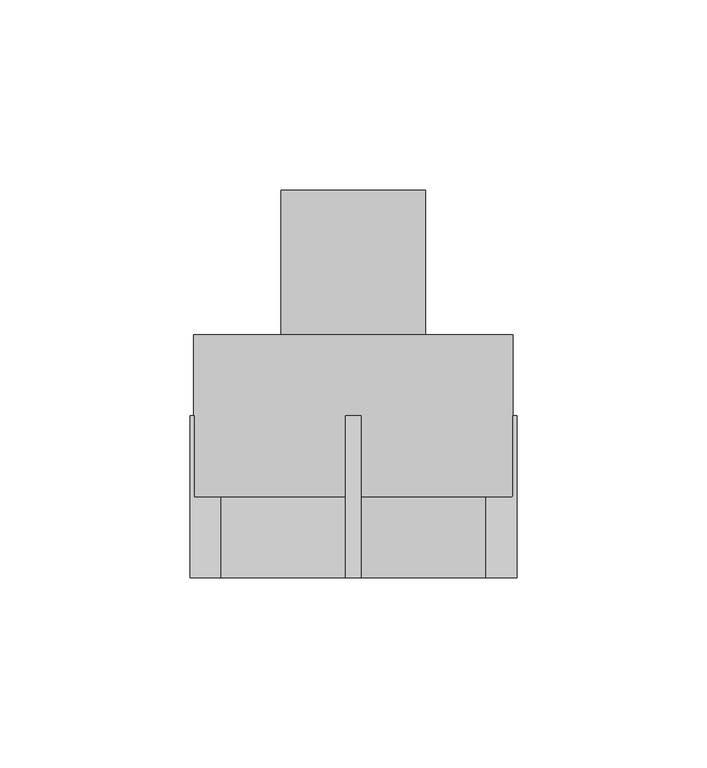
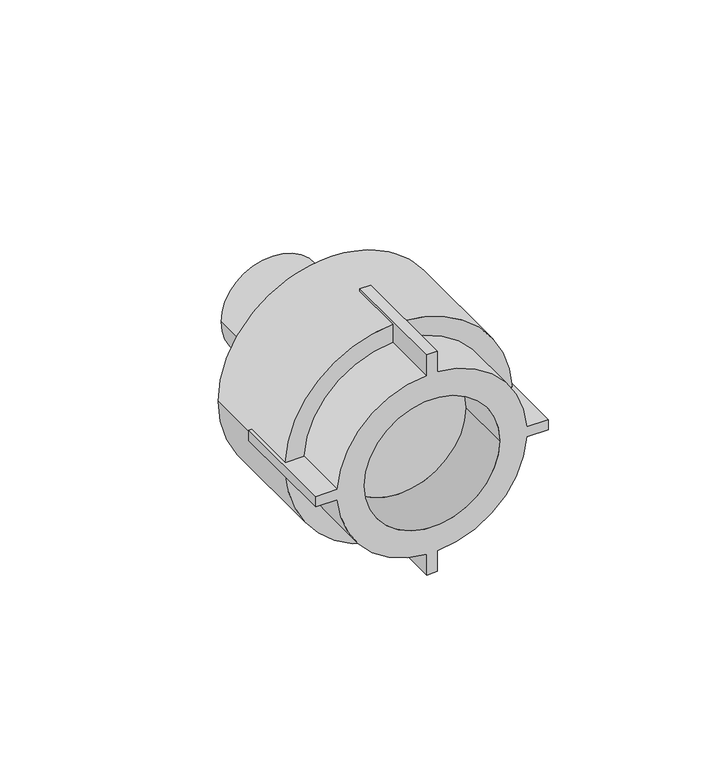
"""IFC4 building model written with IfcOpenShell, lengths in millimetres: pipe fitting geometry, EGB_VASEN_ PPR_Entronque rosca macho WXR101 : Entronque rosca macho WXR101."""

from ifc_helpers import new_model, si_unit, point, frame, origin, origin_2d, place, context, project, spatial, polyline, circle_curve, trimmed, segment, composite_curve, outline, extrude, source, transform, mapped, element, save
from ifc_brep_helpers import plane_surface, cylinder_surface, revolved_surface, advanced_brep


def pipe_fitting_359f0920(model_context):
    return source(origin(), model_context, "Body", "SolidModel", [
        advanced_brep(
        [(2.0, -21.3333333, 43.0), (-2.0, -21.3333333, 43.0), (-2.0, -21.3333333, 34.9428104), (-34.9428104, -21.3333333, 2.0), (-43.0, -21.3333333, 2.0), (-43.0, -21.3333333, -2.0), (-34.9428104, -21.3333333, -2.0), (-2.0, -21.3333333, -34.9428104), (-2.0, -21.3333333, -43.0), (2.0, -21.3333333, -43.0), (2.0, -21.3333333, -34.9428104), (34.9428104, -21.3333333, -2.0), (43.0, -21.3333333, -2.0), (43.0, -21.3333333, 2.0), (34.9428104, -21.3333333, 2.0), (2.0, -21.3333333, 34.9428104), (-25.0, -21.3333333, 0.0), (25.0, -21.3333333, 0.0), (-2.0, 21.3333333, 43.0), (2.0, 21.3333333, 43.0), (2.0, 21.3333333, 41.9523539), (-2.0, 21.3333333, 41.9523539), (2.0, 21.3333333, -43.0), (-2.0, 21.3333333, -43.0), (-2.0, 21.3333333, -41.9523539), (2.0, 21.3333333, -41.9523539), (43.0, 21.3333333, 2.0), (43.0, 21.3333333, -2.0), (41.9523539, 21.3333333, -2.0), (42.0, 21.3333333, 0.0), (41.9523539, 21.3333333, 2.0), (-43.0, 21.3333333, -2.0), (-43.0, 21.3333333, 2.0), (-41.9523539, 21.3333333, 2.0), (-42.0, 21.3333333, 0.0), (-41.9523539, 21.3333333, -2.0), (2.0, 0.0, 34.9428104), (2.0, 0.0, 41.9523539), (-2.0, 0.0, 41.9523539), (-2.0, 0.0, 34.9428104), (2.0, 0.0, -41.9523539), (2.0, 0.0, -34.9428104), (-2.0, 0.0, -34.9428104), (-2.0, 0.0, -41.9523539), (34.9428104, 0.0, -2.0), (41.9523539, 0.0, -2.0), (41.9523539, 0.0, 2.0), (34.9428104, 0.0, 2.0), (-41.9523539, 0.0, -2.0), (-34.9428104, 0.0, -2.0), (-34.9428104, 0.0, 2.0), (-41.9523539, 0.0, 2.0), (-25.0, 0.0, 0.0), (25.0, 0.0, 0.0), (-42.0, 42.6666667, 0.0), (42.0, 42.6666667, 0.0)],
        [
            (0, 1),
            (1, 2),
            (2, 3, circle_curve(frame((0.0, -21.3333333, 0.0), z_axis=(0.0, -1.0, 0.0), x_axis=(1.0, 0.0, 0.0)), 35.0)),
            (3, 4),
            (4, 5),
            (5, 6),
            (6, 7, circle_curve(frame((0.0, -21.3333333, 0.0), z_axis=(0.0, -1.0, 0.0), x_axis=(1.0, 0.0, 0.0)), 35.0)),
            (7, 8),
            (8, 9),
            (9, 10),
            (10, 11, circle_curve(frame((0.0, -21.3333333, 0.0), z_axis=(0.0, -1.0, 0.0), x_axis=(1.0, 0.0, 0.0)), 35.0)),
            (11, 12),
            (12, 13),
            (13, 14),
            (14, 15, circle_curve(frame((0.0, -21.3333333, 0.0), z_axis=(0.0, -1.0, 0.0), x_axis=(1.0, 0.0, 0.0)), 35.0)),
            (15, 0),
            (16, 17, circle_curve(frame((0.0, -21.3333333, 0.0), z_axis=(0.0, 1.0, 0.0), x_axis=(1.0, 0.0, 0.0)), 25.0)),
            (17, 16, circle_curve(frame((0.0, -21.3333333, 0.0), z_axis=(0.0, 1.0, 0.0), x_axis=(1.0, 0.0, 0.0)), 25.0)),
            (18, 19),
            (19, 20),
            (20, 21, circle_curve(frame((0.0, 21.3333333, 0.0), z_axis=(0.0, -1.0, 0.0), x_axis=(1.0, 0.0, 0.0)), 42.0)),
            (21, 18),
            (22, 23),
            (23, 24),
            (24, 25, circle_curve(frame((0.0, 21.3333333, 0.0), z_axis=(0.0, -1.0, 0.0), x_axis=(1.0, 0.0, 0.0)), 42.0)),
            (25, 22),
            (26, 27),
            (27, 28),
            (28, 29, circle_curve(frame((0.0, 21.3333333, 0.0), z_axis=(0.0, -1.0, 0.0), x_axis=(1.0, 0.0, 0.0)), 42.0)),
            (29, 30, circle_curve(frame((0.0, 21.3333333, 0.0), z_axis=(0.0, -1.0, 0.0), x_axis=(1.0, 0.0, 0.0)), 42.0)),
            (30, 26),
            (31, 32),
            (32, 33),
            (33, 34, circle_curve(frame((0.0, 21.3333333, 0.0), z_axis=(0.0, -1.0, 0.0), x_axis=(1.0, 0.0, 0.0)), 42.0)),
            (34, 35, circle_curve(frame((0.0, 21.3333333, 0.0), z_axis=(0.0, -1.0, 0.0), x_axis=(1.0, 0.0, 0.0)), 42.0)),
            (35, 31),
            (19, 0),
            (15, 36),
            (36, 37),
            (37, 20),
            (18, 1),
            (21, 38),
            (38, 39),
            (39, 2),
            (8, 23),
            (22, 9),
            (25, 40),
            (40, 41),
            (41, 10),
            (7, 42),
            (42, 43),
            (43, 24),
            (27, 12),
            (11, 44),
            (44, 45),
            (45, 28),
            (26, 13),
            (30, 46),
            (46, 47),
            (47, 14),
            (5, 31),
            (35, 48),
            (48, 49),
            (49, 6),
            (32, 4),
            (3, 50),
            (50, 51),
            (51, 33),
            (49, 42, circle_curve(frame((0.0, 0.0, 0.0), z_axis=(0.0, -1.0, 0.0), x_axis=(1.0, 0.0, 0.0)), 35.0)),
            (41, 44, circle_curve(frame((0.0, 0.0, 0.0), z_axis=(0.0, -1.0, 0.0), x_axis=(1.0, 0.0, 0.0)), 35.0)),
            (39, 50, circle_curve(frame((0.0, 0.0, 0.0), z_axis=(0.0, -1.0, 0.0), x_axis=(1.0, 0.0, 0.0)), 35.0)),
            (47, 36, circle_curve(frame((0.0, 0.0, 0.0), z_axis=(0.0, -1.0, 0.0), x_axis=(1.0, 0.0, 0.0)), 35.0)),
            (16, 52),
            (52, 53, circle_curve(frame((0.0, 0.0, 0.0), z_axis=(0.0, 1.0, 0.0), x_axis=(1.0, 0.0, 0.0)), 25.0)),
            (53, 17),
            (53, 52, circle_curve(frame((0.0, 0.0, 0.0), z_axis=(0.0, 1.0, 0.0), x_axis=(1.0, 0.0, 0.0)), 25.0)),
            (40, 45, circle_curve(frame((0.0, 0.0, 0.0), z_axis=(0.0, -1.0, 0.0), x_axis=(1.0, 0.0, 0.0)), 42.0)),
            (48, 43, circle_curve(frame((0.0, 0.0, 0.0), z_axis=(0.0, -1.0, 0.0), x_axis=(1.0, 0.0, 0.0)), 42.0)),
            (46, 37, circle_curve(frame((0.0, 0.0, 0.0), z_axis=(0.0, -1.0, 0.0), x_axis=(1.0, 0.0, 0.0)), 42.0)),
            (38, 51, circle_curve(frame((0.0, 0.0, 0.0), z_axis=(0.0, -1.0, 0.0), x_axis=(1.0, 0.0, 0.0)), 42.0)),
            (54, 55, circle_curve(frame((0.0, 42.6666667, 0.0), z_axis=(0.0, 1.0, 0.0), x_axis=(1.0, 0.0, 0.0)), 42.0)),
            (55, 54, circle_curve(frame((0.0, 42.6666667, 0.0), z_axis=(0.0, 1.0, 0.0), x_axis=(1.0, 0.0, 0.0)), 42.0)),
            (55, 29),
            (34, 54),
        ],
        [
            plane_surface(frame((0.0, -21.3333333, 0.0), z_axis=(0.0, -1.0, 0.0), x_axis=(0.0, 0.0, 1.0))),
            plane_surface(frame((0.0, 21.3333333, 0.0), z_axis=(0.0, 1.0, 0.0), x_axis=(0.0, 0.0, 1.0))),
            plane_surface(frame((2.0, -21.3333333, 34.0), z_axis=(1.0, 0.0, 0.0), x_axis=(0.0, 1.0, 0.0))),
            plane_surface(frame((2.0, -21.3333333, 43.0), z_axis=(0.0, 0.0, 1.0), x_axis=(0.0, 1.0, 0.0))),
            plane_surface(frame((-2.0, -21.3333333, 43.0), z_axis=(-1.0, 0.0, 0.0), x_axis=(0.0, 1.0, 0.0))),
            plane_surface(frame((-2.0, -21.3333333, -43.0), z_axis=(0.0, 0.0, -1.0), x_axis=(0.0, 1.0, 0.0))),
            plane_surface(frame((2.0, -21.3333333, -43.0), z_axis=(1.0, 0.0, 0.0), x_axis=(0.0, 1.0, 0.0))),
            plane_surface(frame((-2.0, -21.3333333, -34.0), z_axis=(-1.0, 0.0, 0.0), x_axis=(0.0, 1.0, 0.0))),
            plane_surface(frame((34.0, -21.3333333, -2.0), z_axis=(0.0, 0.0, -1.0), x_axis=(0.0, 1.0, 0.0))),
            plane_surface(frame((43.0, -21.3333333, -2.0), z_axis=(1.0, 0.0, 0.0), x_axis=(0.0, 1.0, 0.0))),
            plane_surface(frame((43.0, -21.3333333, 2.0), z_axis=(0.0, 0.0, 1.0), x_axis=(0.0, 1.0, 0.0))),
            plane_surface(frame((-43.0, -21.3333333, -2.0), z_axis=(0.0, 0.0, -1.0), x_axis=(0.0, 1.0, 0.0))),
            plane_surface(frame((-34.0, -21.3333333, 2.0), z_axis=(0.0, 0.0, 1.0), x_axis=(0.0, 1.0, 0.0))),
            plane_surface(frame((-43.0, -21.3333333, 2.0), z_axis=(-1.0, 0.0, 0.0), x_axis=(0.0, 1.0, 0.0))),
            cylinder_surface(frame((0.0, 0.0, 0.0), z_axis=(0.0, -1.0, 0.0), x_axis=(1.0, 0.0, 0.0)), 35.0),
            revolved_surface(polyline([(25.0, 0.0, 0.0), (25.0, -21.3333333, 0.0)]), (0.0, 0.0, 0.0), (0.0, 1.0, 0.0)),
            plane_surface(frame((42.0, 0.0, 0.0), z_axis=(0.0, -1.0, 0.0), x_axis=(0.0, 0.0, 1.0))),
            plane_surface(frame((42.0, 42.6666667, 0.0), z_axis=(0.0, 1.0, 0.0), x_axis=(0.0, 0.0, -1.0))),
            cylinder_surface(frame((0.0, 42.6666667, 0.0), z_axis=(0.0, -1.0, 0.0), x_axis=(1.0, 0.0, 0.0)), 42.0),
        ],
        [
            (0, [[1, 2, 3, 4, 5, 6, 7, 8, 9, 10, 11, 12, 13, 14, 15, 16], [17, 18]]),
            (1, [[19, 20, 21, 22]]),
            (1, [[23, 24, 25, 26]]),
            (1, [[27, 28, 29, 30, 31]]),
            (1, [[32, 33, 34, 35, 36]]),
            (2, [[37, -16, 38, 39, 40, -20]]),
            (3, [[-1, -37, -19, 41]]),
            (4, [[-41, -22, 42, 43, 44, -2]]),
            (5, [[-9, 45, -23, 46]]),
            (6, [[-46, -26, 47, 48, 49, -10]]),
            (7, [[-45, -8, 50, 51, 52, -24]]),
            (8, [[53, -12, 54, 55, 56, -28]]),
            (9, [[-13, -53, -27, 57]]),
            (10, [[-57, -31, 58, 59, 60, -14]]),
            (11, [[61, -36, 62, 63, 64, -6]]),
            (12, [[65, -4, 66, 67, 68, -33]]),
            (13, [[-5, -65, -32, -61]]),
            (14, [[-7, -64, 69, -50]]),
            (14, [[-11, -49, 70, -54]]),
            (14, [[-3, -44, 71, -66]]),
            (14, [[-15, -60, 72, -38]]),
            (15, [[-17, 73, 74, 75]]),
            (15, [[-18, -75, 76, -73]]),
            (16, [[-74, -76]]),
            (16, [[77, -55, -70, -48]]),
            (16, [[78, -51, -69, -63]]),
            (16, [[79, -39, -72, -59]]),
            (16, [[80, -67, -71, -43]]),
            (17, [[81, 82]]),
            (18, [[-82, 83, -29, -56, -77, -47, -25, -52, -78, -62, -35, 84]]),
            (18, [[-81, -84, -34, -68, -80, -42, -21, -40, -79, -58, -30, -83]]),
        ],
    ),
        extrude(outline(composite_curve([segment(trimmed(circle_curve(origin_2d(), 19.05), [point((0.0, -19.05))], [point((0.0, 19.05))], False, "CARTESIAN"), True, "CONTINUOUS"), segment(trimmed(circle_curve(origin_2d(), 19.05), [point((0.0, 19.05))], [point((0.0, -19.05))], False, "CARTESIAN"), True, "CONTINUOUS")], self_intersect=False)), frame((0.0, 21.3333333, 0.0), z_axis=(0.0, 1.0, 0.0), x_axis=(0.0, 0.0, 1.0)), (0.0, 0.0, 1.0), 59.3333333),
    ])


if __name__ == "__main__":
    model = new_model("IFC4")
    model_context = context("Model", 3, world=origin())
    ifc_project = project(units=[si_unit("LENGTHUNIT", "METRE", prefix="MILLI")], contexts=[model_context])
    site = spatial("IfcSite", under=ifc_project)
    building = spatial("IfcBuilding", under=site)
    placement = place(None, origin())
    pipe_fitting_shape = pipe_fitting_359f0920(model_context)
    element("IfcPipeFitting", 1, ObjectType="EGB_VASEN_ PPR_Entronque rosca macho WXR101 : Entronque rosca macho WXR101", at=placement, inside=building, context=model_context, shape_type="MappedRepresentation", body=[
        mapped(pipe_fitting_shape, transform((0.0, 0.0, 0.0), x_axis=(1.0, 0.0, 0.0), y_axis=(0.0, 1.0, 0.0), z_axis=(0.0, 0.0, 1.0))),
    ])
    save(model, "model.ifc")
